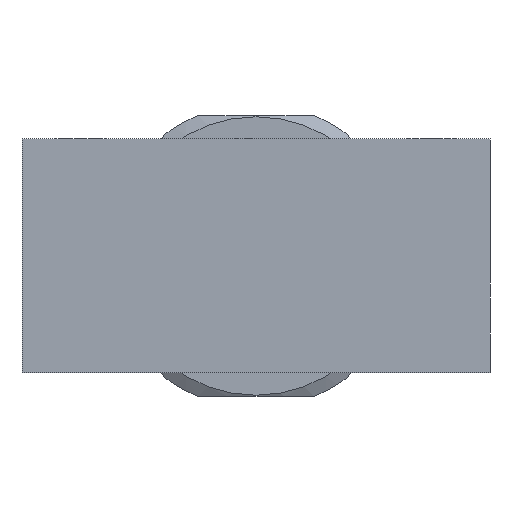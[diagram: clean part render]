
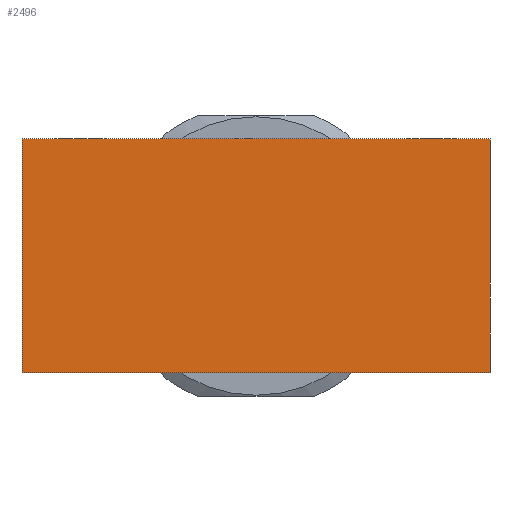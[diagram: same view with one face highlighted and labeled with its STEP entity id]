
A CAD part, left-side view. The second image highlights one B-rep face of the part: STEP entity #2496.
In plain terms, the highlighted planar face has unit normal (-1, 0, 0).
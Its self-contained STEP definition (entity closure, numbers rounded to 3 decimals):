
#158=LINE('',#3613,#272);
#160=LINE('',#3618,#274);
#161=LINE('',#3619,#275);
#162=LINE('',#3620,#276);
#272=VECTOR('',#2992,40.);
#274=VECTOR('',#2996,40.);
#275=VECTOR('',#2997,20.);
#276=VECTOR('',#2998,20.);
#392=PLANE('',#2676);
#554=FACE_OUTER_BOUND('',#718,.T.);
#718=EDGE_LOOP('',(#1630,#1631,#1632,#1633));
#1000=VERTEX_POINT('',#3610);
#1001=VERTEX_POINT('',#3612);
#1002=VERTEX_POINT('',#3616);
#1003=VERTEX_POINT('',#3617);
#1251=EDGE_CURVE('',#1001,#1000,#158,.T.);
#1253=EDGE_CURVE('',#1002,#1003,#160,.T.);
#1254=EDGE_CURVE('',#1001,#1003,#161,.T.);
#1255=EDGE_CURVE('',#1002,#1000,#162,.T.);
#1630=ORIENTED_EDGE('',*,*,#1253,.T.);
#1631=ORIENTED_EDGE('',*,*,#1254,.F.);
#1632=ORIENTED_EDGE('',*,*,#1251,.T.);
#1633=ORIENTED_EDGE('',*,*,#1255,.F.);
#2496=ADVANCED_FACE('',(#554),#392,.T.);
#2676=AXIS2_PLACEMENT_3D('',#3615,#2994,#2995);
#2992=DIRECTION('',(0.,-1.,0.));
#2994=DIRECTION('center_axis',(-1.,0.,0.));
#2995=DIRECTION('ref_axis',(0.,0.,1.));
#2996=DIRECTION('',(0.,1.,0.));
#2997=DIRECTION('',(0.,0.,1.));
#2998=DIRECTION('',(0.,0.,-1.));
#3610=CARTESIAN_POINT('',(-12.5,-20.,-10.));
#3612=CARTESIAN_POINT('',(-12.5,20.,-10.));
#3613=CARTESIAN_POINT('',(-12.5,20.,-10.));
#3615=CARTESIAN_POINT('Origin',(-12.5,-20.,0.));
#3616=CARTESIAN_POINT('',(-12.5,-20.,10.));
#3617=CARTESIAN_POINT('',(-12.5,20.,10.));
#3618=CARTESIAN_POINT('',(-12.5,20.,10.));
#3619=CARTESIAN_POINT('',(-12.5,20.,0.));
#3620=CARTESIAN_POINT('',(-12.5,-20.,0.));
